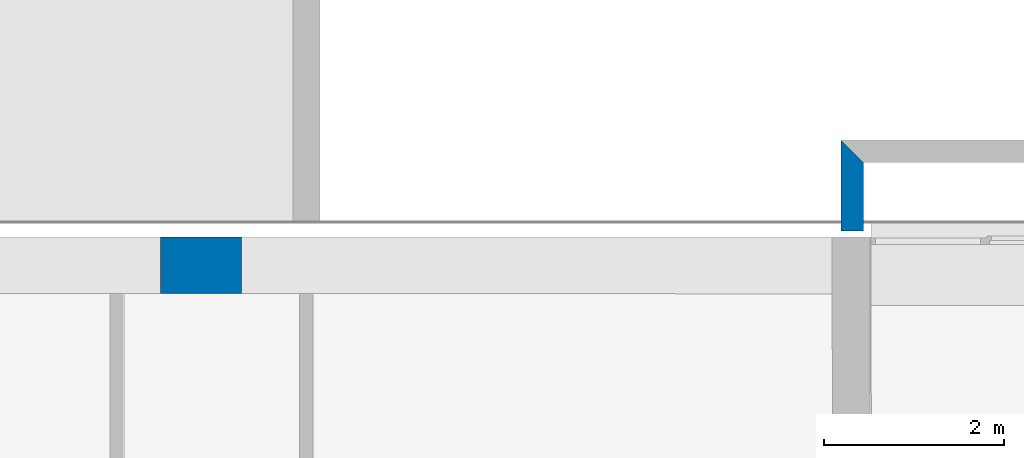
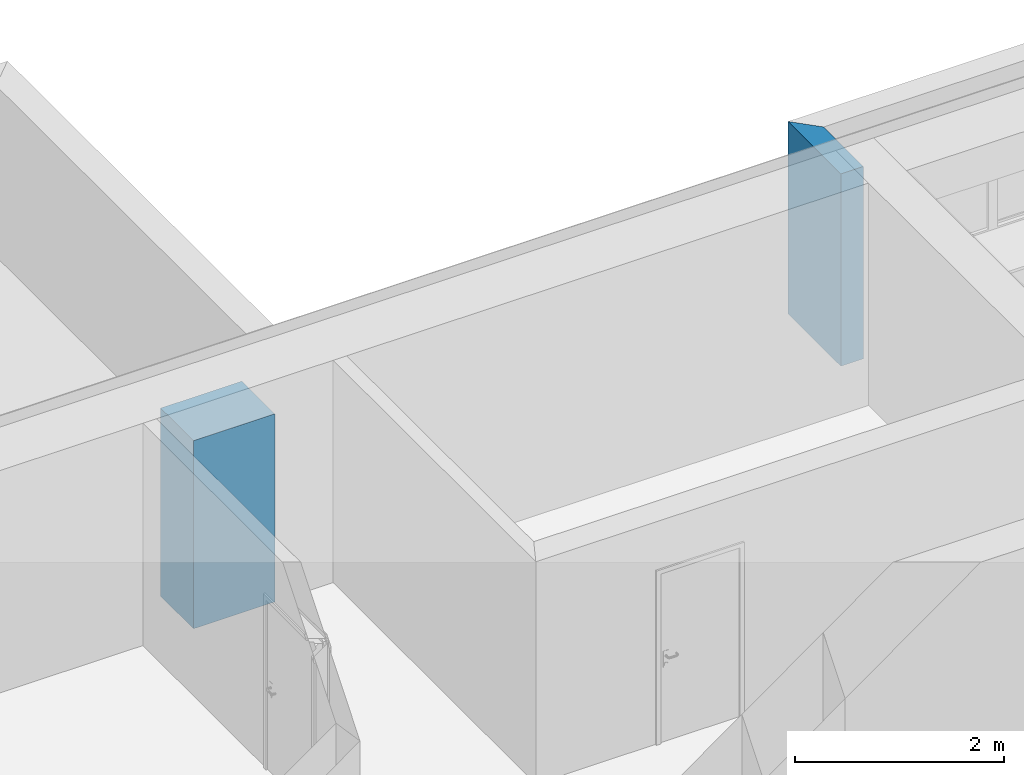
# One storey, part 18 of 127: 2 walls.
"""IFC2X3 building model written with IfcOpenShell, lengths in millimetres."""

from ifc_helpers import new_model, entity, si_unit, converted_unit, derived_unit, money_unit, direction, frame, origin_with_axes, place, context, subcontext, project, spatial, polyline, outline, extrude, material, layer, layer_set, layer_usage, type_object, element, save


model = new_model("IFC2X3")

# Units and contexts
model_context = context("Model", 3, precision=1e-05, world=origin_with_axes(), true_north=direction((0.0, 1.0)))
body_context = subcontext(model_context, "Body", "Model", "MODEL_VIEW")
ifc_project = project(units=[si_unit("LENGTHUNIT", "METRE", prefix="MILLI"), si_unit("AREAUNIT", "SQUARE_METRE"), si_unit("VOLUMEUNIT", "CUBIC_METRE"), converted_unit("PLANEANGLEUNIT", "DEGREE", entity("IfcPlaneAngleMeasure", 0.0174532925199), si_unit("PLANEANGLEUNIT", "RADIAN"), dimensions=[0, 0, 0, 0, 0, 0, 0]), si_unit("SOLIDANGLEUNIT", "STERADIAN"), money_unit("EUR"), converted_unit("TIMEUNIT", "Year", entity("IfcTimeMeasure", 31556926.0), si_unit("TIMEUNIT", "SECOND"), dimensions=[0, 0, 1, 0, 0, 0, 0]), si_unit("MASSUNIT", "GRAM", prefix="KILO"), si_unit("THERMODYNAMICTEMPERATUREUNIT", "DEGREE_CELSIUS"), si_unit("LUMINOUSINTENSITYUNIT", "LUMEN"), si_unit("ENERGYUNIT", "JOULE", prefix="MEGA"), derived_unit("THERMALCONDUCTANCEUNIT", [(si_unit("POWERUNIT", "WATT"), 1), (si_unit("LENGTHUNIT", "METRE"), -1), (si_unit("THERMODYNAMICTEMPERATUREUNIT", "KELVIN"), -1)]), derived_unit("SPECIFICHEATCAPACITYUNIT", [(si_unit("ENERGYUNIT", "JOULE"), 1), (si_unit("MASSUNIT", "GRAM", prefix="KILO"), -1), (si_unit("THERMODYNAMICTEMPERATUREUNIT", "KELVIN"), -1)]), derived_unit("MASSDENSITYUNIT", [(si_unit("MASSUNIT", "GRAM", prefix="KILO"), 1), (si_unit("VOLUMEUNIT", "CUBIC_METRE"), -1)])], contexts=[model_context])

# Site, building, storey
site_placement = place(None, origin_with_axes())
site = spatial("IfcSite", under=ifc_project, at=site_placement, Name="Site", CompositionType="ELEMENT")
building_placement = place(site_placement, origin_with_axes())
building = spatial("IfcBuilding", under=site, at=building_placement, Name="Building", CompositionType="ELEMENT")
storey_placement = place(building_placement, origin_with_axes())
storey = spatial("IfcBuildingStorey", under=building, at=storey_placement, Name="1 KORRUS", CompositionType="ELEMENT", Elevation=0.0)

# Walls
ifc_material_1 = material(Name="Kivi -  Uus Konstruktsioon")
ifc_layer_1 = layer(ifc_material_1, 630.0, ventilated="UNKNOWN")
ifc_layer_set_1 = layer_set([ifc_layer_1], Name="uus kinni ehitav sein 630")
ifc_layer_usage_1 = layer_usage(ifc_layer_set_1, "AXIS2", "NEGATIVE", 0.0)
wall_type_1 = type_object("IfcWallType", Name="FIBO", PredefinedType="NOTDEFINED")
wall_1_placement = place(storey_placement, frame((81159.7877897, 46606.43895, 0.0), z_axis=(0.0, 0.0, 1.0), x_axis=(-1.0, 0.0, 0.0)))
element("IfcWallStandardCase", 1, at=wall_1_placement, inside=storey, type_object=wall_type_1, material=ifc_layer_usage_1, Name="uus kinni ehitav sein 630", context=body_context, shape_type="SweptSolid", body=[
    extrude(outline(polyline([(0.0, -630.0), (900.000000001, -630.0), (900.000000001, 0.0), (0.0, 0.0), (0.0, -630.0)])), origin_with_axes(), (0.0, 0.0, 1.0), 2200.0),
])
ifc_material_2 = material(Name="Kivi - Ol.Olev Konstruktsioon")
ifc_layer_2 = layer(ifc_material_2, 250.0, ventilated="UNKNOWN")
ifc_layer_set_2 = layer_set([ifc_layer_2], Name="Ol.olve tugimüür 250")
ifc_layer_usage_2 = layer_usage(ifc_layer_set_2, "AXIS2", "POSITIVE", -125.0)
wall_type_2 = type_object("IfcWallType", Name="SW - 028", PredefinedType="NOTDEFINED")
wall_2_placement = place(storey_placement, frame((87949.6817944, 47303.0721504, 0.0), z_axis=(0.0, 0.0, 1.0), x_axis=(0.00024875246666, 0.999999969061, 0.0)))
element("IfcWallStandardCase", 2, at=wall_2_placement, inside=storey, type_object=wall_type_2, material=ifc_layer_usage_2, Name="Ol.olve tugimüür 250", context=body_context, shape_type="SweptSolid", body=[
    extrude(outline(polyline([(0.0, -125.0), (762.157812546, -125.0), (1012.15781255, 125.0), (-9.09494701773e-10, 125.0), (0.0, -125.0)])), origin_with_axes(), (0.0, 0.0, 1.0), 2250.0),
])

save(model, "model.ifc")
